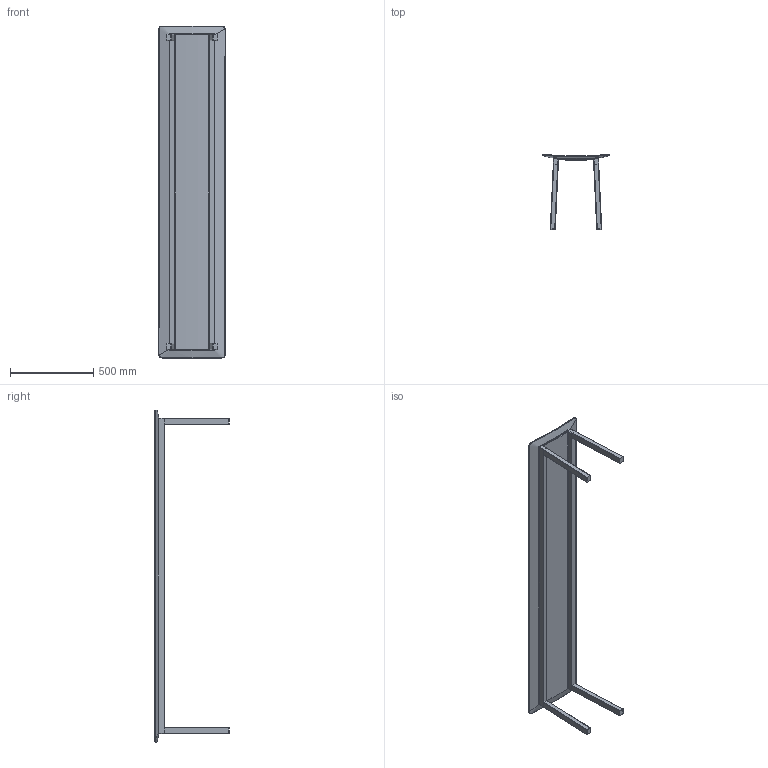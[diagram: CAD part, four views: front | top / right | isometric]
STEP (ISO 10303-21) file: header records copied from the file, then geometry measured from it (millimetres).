
FILE_DESCRIPTION (( 'STEP AP203' ), '1' );
FILE_NAME ('NERVOSA BENCH.STEP', '2023-04-19T09:05:49', ( '' ), ( '' ), 'SwSTEP 2.0', 'SolidWorks 2023', '' );
FILE_SCHEMA (( 'CONFIG_CONTROL_DESIGN' ));
Length unit declared in the file: millimetre
Products named in the file (2): NERVOSA BENCH; Group1^NERVOSA BENCH
Assembly tree (1 placements, depth 2):
  NERVOSA BENCH
    Group1^NERVOSA BENCH
Bounding box: 400.65 x 449.8 x 2000 mm (x, y, z)
Volume: 19831119.3 mm3; surface area: 2099355.2 mm2
Topology: 1 solids, 1 shells, 135 faces, 321 edges, 188 vertices
Faces by surface type: cylinder 50, bspline 45, plane 32, torus 8
Entity records: 7565 total; most frequent: CARTESIAN_POINT 4617, ORIENTED_EDGE 642, DIRECTION 510, EDGE_CURVE 321, AXIS2_PLACEMENT_3D 197, VERTEX_POINT 188, EDGE_LOOP 135, ADVANCED_FACE 135
